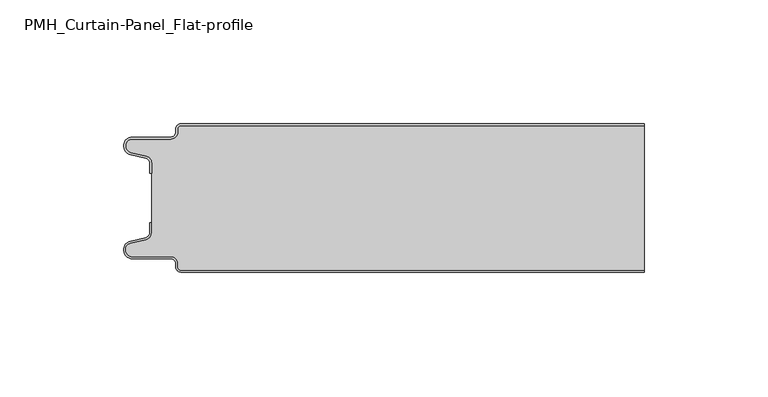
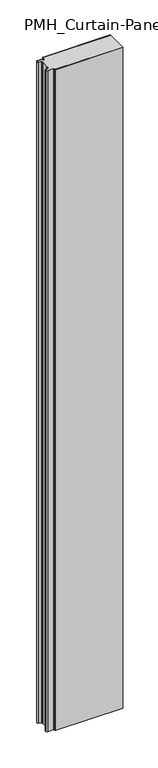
"""IFC4 building model written with IfcOpenShell, lengths in millimetres: plate geometry, PMH_Curtain-Panel_Flat-profile : ACH_PMH_Stone-wool-Panel_60M."""

from ifc_helpers import new_model, si_unit, point, frame_2d, origin, origin_with_axes, place, context, project, spatial, polyline, circle_curve, trimmed, segment, composite_curve, outline, extrude, source, transform, mapped, element, save


def pmh_curtain_panel_flat_profile_669fca09(model_context):
    return source(origin(), model_context, "Body", "SweptSolid", [
        extrude(outline(composite_curve([segment(trimmed(circle_curve(frame_2d((-87.4119739, -2.0)), 1.2), [point((-87.4119739, -0.8))], [point((-88.6119739, -2.0))], True, "CARTESIAN"), True, "CONTINUOUS"), segment(polyline([(-88.6119739, -2.0), (-88.6119739, -3.4)]), True, "CONTINUOUS"), segment(trimmed(circle_curve(frame_2d((-91.4119739, -3.4)), 2.8), [point((-88.6119739, -3.4))], [point((-91.4119739, -6.2))], False, "CARTESIAN"), True, "CONTINUOUS"), segment(polyline([(-91.4119739, -6.2), (-106.9119739, -6.2)]), True, "CONTINUOUS"), segment(trimmed(circle_curve(frame_2d((-106.9119739, -9.0)), 2.8), [point((-106.9119739, -6.2))], [point((-107.541837, -11.7282362))], True, "CARTESIAN"), True, "CONTINUOUS"), segment(polyline([(-107.541837, -11.7282362), (-101.3821109, -13.150321)]), True, "CONTINUOUS"), segment(trimmed(circle_curve(frame_2d((-102.0119739, -15.878557)), 2.8), [point((-101.3821109, -13.150321))], [point((-99.2119739, -15.878557))], False, "CARTESIAN"), True, "CONTINUOUS"), segment(polyline([(-99.2119739, -15.878557), (-99.2119739, -20.0), (-100.0119739, -20.0), (-100.0119739, -15.878557)]), True, "CONTINUOUS"), segment(trimmed(circle_curve(frame_2d((-102.0119739, -15.878557)), 2.0), [point((-100.0119739, -15.878557))], [point((-101.5620718, -13.9298169))], True, "CARTESIAN"), True, "CONTINUOUS"), segment(polyline([(-101.5620718, -13.9298169), (-107.7217978, -12.507732)]), True, "CONTINUOUS"), segment(trimmed(circle_curve(frame_2d((-106.9119739, -9.0)), 3.6), [point((-107.7217978, -12.507732))], [point((-106.9119739, -5.4))], False, "CARTESIAN"), True, "CONTINUOUS"), segment(polyline([(-106.9119739, -5.4), (-91.4119739, -5.4)]), True, "CONTINUOUS"), segment(trimmed(circle_curve(frame_2d((-91.4119739, -3.4)), 2.0), [point((-91.4119739, -5.4))], [point((-89.4119739, -3.4))], True, "CARTESIAN"), True, "CONTINUOUS"), segment(polyline([(-89.4119739, -3.4), (-89.4119739, -2.0)]), True, "CONTINUOUS"), segment(trimmed(circle_curve(frame_2d((-87.4119739, -2.0)), 2.0), [point((-89.4119739, -2.0))], [point((-87.4119739, 0.0))], False, "CARTESIAN"), True, "CONTINUOUS"), segment(polyline([(-87.4119739, 0.0), (100.0119739, 0.0), (100.0119739, -0.8), (-87.4119739, -0.8)]), True, "CONTINUOUS")], self_intersect=False)), origin_with_axes(), (0.0, 0.0, 1.0), 1945.7507136),
        extrude(outline(composite_curve([segment(polyline([(-99.2119739, -44.1214426), (-99.2119739, -15.8785573)]), True, "CONTINUOUS"), segment(trimmed(circle_curve(frame_2d((-102.0119739, -15.8785573)), 2.8), [point((-99.2119739, -15.8785573))], [point((-101.3821109, -13.1503212))], True, "CARTESIAN"), True, "CONTINUOUS"), segment(polyline([(-101.3821109, -13.1503212), (-107.541837, -11.7282362)]), True, "CONTINUOUS"), segment(trimmed(circle_curve(frame_2d((-106.911974, -9.0)), 2.8), [point((-107.541837, -11.7282362))], [point((-106.911974, -6.2))], False, "CARTESIAN"), True, "CONTINUOUS"), segment(polyline([(-106.911974, -6.2), (-91.411974, -6.2)]), True, "CONTINUOUS"), segment(trimmed(circle_curve(frame_2d((-91.411974, -3.4)), 2.8), [point((-91.411974, -6.2))], [point((-88.611974, -3.4))], True, "CARTESIAN"), True, "CONTINUOUS"), segment(polyline([(-88.611974, -3.4), (-88.611974, -2.0)]), True, "CONTINUOUS"), segment(trimmed(circle_curve(frame_2d((-87.411974, -2.0)), 1.2), [point((-88.611974, -2.0))], [point((-87.411974, -0.8))], False, "CARTESIAN"), True, "CONTINUOUS"), segment(polyline([(-87.411974, -0.8), (100.0119739, -0.8), (100.0119739, -59.2), (-87.411974, -59.2)]), True, "CONTINUOUS"), segment(trimmed(circle_curve(frame_2d((-87.411974, -58.0)), 1.2), [point((-87.411974, -59.2))], [point((-88.611974, -58.0))], False, "CARTESIAN"), True, "CONTINUOUS"), segment(polyline([(-88.611974, -58.0), (-88.611974, -56.6)]), True, "CONTINUOUS"), segment(trimmed(circle_curve(frame_2d((-91.411974, -56.6)), 2.8), [point((-88.611974, -56.6))], [point((-91.411974, -53.8))], True, "CARTESIAN"), True, "CONTINUOUS"), segment(polyline([(-91.411974, -53.8), (-106.911974, -53.8)]), True, "CONTINUOUS"), segment(trimmed(circle_curve(frame_2d((-106.911974, -51.0)), 2.8), [point((-106.911974, -53.8))], [point((-107.541837, -48.2717638))], False, "CARTESIAN"), True, "CONTINUOUS"), segment(polyline([(-107.541837, -48.2717638), (-101.3821109, -46.8496788)]), True, "CONTINUOUS"), segment(trimmed(circle_curve(frame_2d((-102.0119739, -44.1214426)), 2.8), [point((-101.3821109, -46.8496788))], [point((-99.2119739, -44.1214426))], True, "CARTESIAN"), True, "CONTINUOUS")], self_intersect=False)), origin_with_axes(), (0.0, 0.0, 1.0), 1945.7507136),
        extrude(outline(composite_curve([segment(trimmed(circle_curve(frame_2d((-87.4119739, -58.0)), 2.0), [point((-87.4119739, -60.0))], [point((-89.4119739, -58.0))], False, "CARTESIAN"), True, "CONTINUOUS"), segment(polyline([(-89.4119739, -58.0), (-89.4119739, -56.6)]), True, "CONTINUOUS"), segment(trimmed(circle_curve(frame_2d((-91.4119739, -56.6)), 2.0), [point((-89.4119739, -56.6))], [point((-91.4119739, -54.6))], True, "CARTESIAN"), True, "CONTINUOUS"), segment(polyline([(-91.4119739, -54.6), (-106.9119739, -54.6)]), True, "CONTINUOUS"), segment(trimmed(circle_curve(frame_2d((-106.9119739, -51.0)), 3.6), [point((-106.9119739, -54.6))], [point((-107.7217979, -47.4922678))], False, "CARTESIAN"), True, "CONTINUOUS"), segment(polyline([(-107.7217979, -47.4922678), (-101.5620718, -46.070183)]), True, "CONTINUOUS"), segment(trimmed(circle_curve(frame_2d((-102.0119739, -44.121443)), 2.0), [point((-101.5620718, -46.070183))], [point((-100.0119739, -44.121443))], True, "CARTESIAN"), True, "CONTINUOUS"), segment(polyline([(-100.0119739, -44.121443), (-100.0119739, -40.0), (-99.2119739, -40.0), (-99.2119739, -44.121443)]), True, "CONTINUOUS"), segment(trimmed(circle_curve(frame_2d((-102.0119739, -44.121443)), 2.8), [point((-99.2119739, -44.121443))], [point((-101.3821109, -46.8496792))], False, "CARTESIAN"), True, "CONTINUOUS"), segment(polyline([(-101.3821109, -46.8496792), (-107.5418369, -48.271764)]), True, "CONTINUOUS"), segment(trimmed(circle_curve(frame_2d((-106.9119739, -51.0)), 2.8), [point((-107.5418369, -48.271764))], [point((-106.9119739, -53.8))], True, "CARTESIAN"), True, "CONTINUOUS"), segment(polyline([(-106.9119739, -53.8), (-91.4119739, -53.8)]), True, "CONTINUOUS"), segment(trimmed(circle_curve(frame_2d((-91.4119739, -56.6)), 2.8), [point((-91.4119739, -53.8))], [point((-88.6119739, -56.6))], False, "CARTESIAN"), True, "CONTINUOUS"), segment(polyline([(-88.6119739, -56.6), (-88.6119739, -58.0)]), True, "CONTINUOUS"), segment(trimmed(circle_curve(frame_2d((-87.4119739, -58.0)), 1.2), [point((-88.6119739, -58.0))], [point((-87.4119739, -59.2))], True, "CARTESIAN"), True, "CONTINUOUS"), segment(polyline([(-87.4119739, -59.2), (100.0119739, -59.2), (100.0119739, -60.0), (-87.4119739, -60.0)]), True, "CONTINUOUS")], self_intersect=False)), origin_with_axes(), (0.0, 0.0, 1.0), 1945.7507136),
    ])


if __name__ == "__main__":
    model = new_model("IFC4")
    model_context = context("Model", 3, world=origin())
    ifc_project = project(units=[si_unit("LENGTHUNIT", "METRE", prefix="MILLI")], contexts=[model_context])
    site = spatial("IfcSite", under=ifc_project)
    building = spatial("IfcBuilding", under=site)
    placement = place(None, origin())
    pmh_curtain_panel_flat_profile_shape = pmh_curtain_panel_flat_profile_669fca09(model_context)
    element("IfcPlate", 1, ObjectType="PMH_Curtain-Panel_Flat-profile : ACH_PMH_Stone-wool-Panel_60M", at=placement, inside=building, context=model_context, shape_type="MappedRepresentation", body=[
        mapped(pmh_curtain_panel_flat_profile_shape, transform((0.0, 0.0, 0.0), x_axis=(1.0, 0.0, 0.0), y_axis=(0.0, 1.0, 0.0), z_axis=(0.0, 0.0, 1.0))),
    ])
    save(model, "model.ifc")
